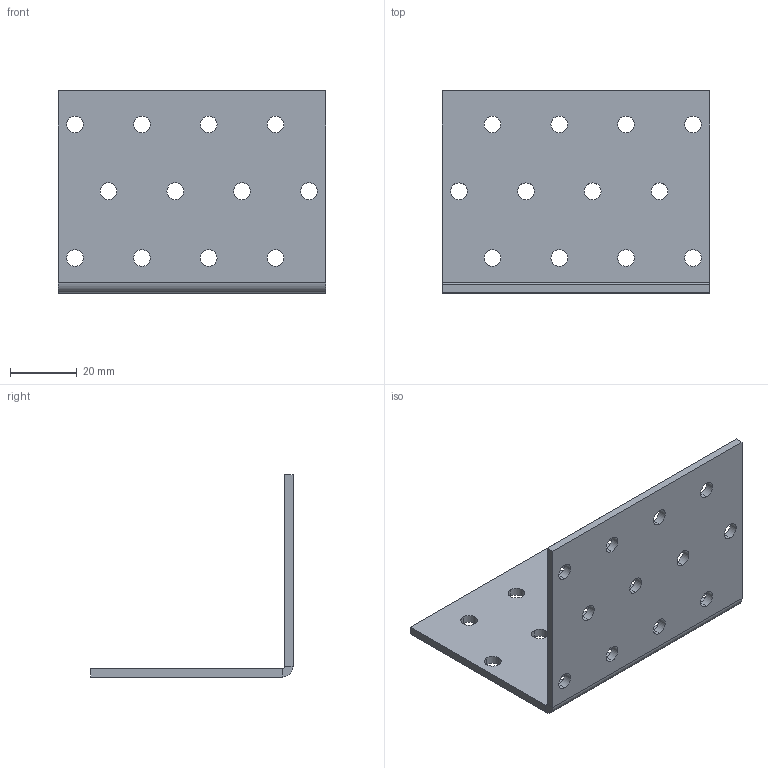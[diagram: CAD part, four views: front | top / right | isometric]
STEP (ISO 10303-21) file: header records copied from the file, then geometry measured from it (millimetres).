
FILE_DESCRIPTION (( 'STEP AP203' ), '1' );
FILE_NAME ('10505.STEP', '2020-04-20T10:52:09', ( '' ), ( '' ), 'SwSTEP 2.0', 'SolidWorks 2013', '' );
FILE_SCHEMA (( 'CONFIG_CONTROL_DESIGN' ));
Length unit declared in the file: millimetre
Products named in the file (1): 10505
Bounding box: 80 x 60.46 x 60.46 mm (x, y, z)
Volume: 22336.1 mm3; surface area: 19799.2 mm2
Topology: 1 solids, 1 shells, 60 faces, 170 edges, 112 vertices
Faces by surface type: cylinder 50, plane 10
Entity records: 2175 total; most frequent: DIRECTION 392, CARTESIAN_POINT 343, ORIENTED_EDGE 340, EDGE_CURVE 170, AXIS2_PLACEMENT_3D 161, VERTEX_POINT 112, EDGE_LOOP 108, CIRCLE 100
